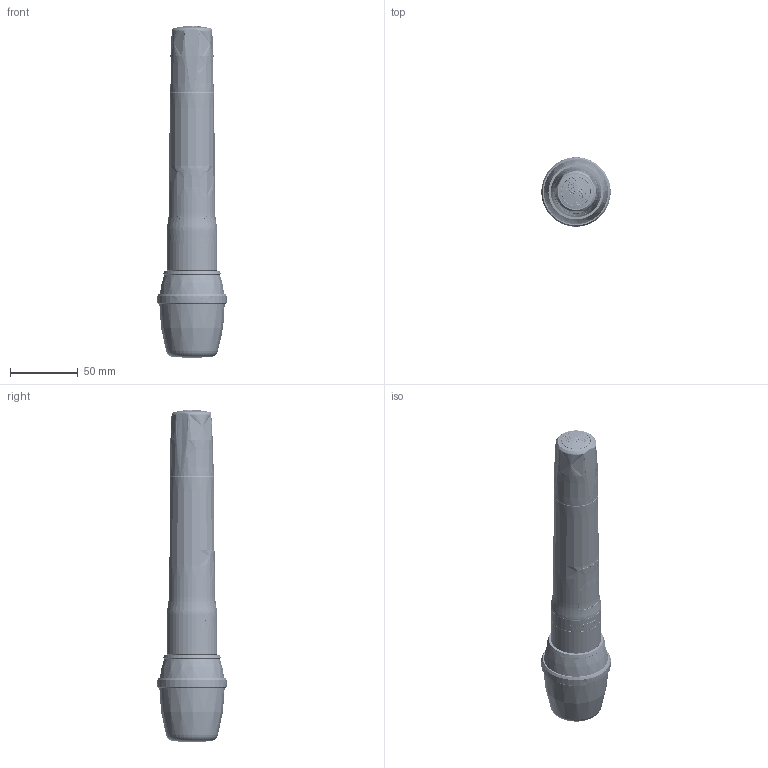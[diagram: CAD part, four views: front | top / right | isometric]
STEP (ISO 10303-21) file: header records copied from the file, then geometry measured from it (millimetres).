
FILE_DESCRIPTION(/* description */ (''),/* implementation_level */ '2;1');
FILE_NAME(/* name */ 'A20-HH_Shareable_3D.stp',/* time_stamp */ '2024-12-11T17:22:24-06:00',('The Cool People at Sound Devices'),(''),/* preprocessor_version */ 'ST-DEVELOPER v20',/* originating_system */ 'Autodesk Inventor 2024','Proprietary to Sound Devices LLC');
FILE_SCHEMA (('AUTOMOTIVE_DESIGN { 1 0 10303 214 3 1 1 }'));
Products named in the file (59): Solid 1; Solid 2; Solid 3; Solid 4; Solid 5; Solid 6; Solid 7; Solid 8; Solid 9; Solid 10; Solid 11; Solid 12; Solid 13; Solid 14; Solid 15; Solid 16; Solid 17; Solid 18; Solid 19; Solid 20; Solid 21; Solid 22; Solid 23; Solid 24; Solid 25; Solid 26; Solid 27; Solid 28; Solid 29; Solid 30; Solid 31; Solid 32; Solid 33; Solid 34; Solid 35; Solid 36; Solid 37; Solid 38; Solid 39; Solid 40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
Assembly tree (76 placements, depth 4):
  Solid 1
    Solid 2
    Solid 3
    Solid 4
      Solid 5
      Solid 6
      Solid 7
    Solid 8
      Solid 9
      Solid 10
      Solid 11
      Solid 12
      Solid 13
    Solid 14
      Solid 15
      Solid 21  x2
      Solid 16  x3
      Solid 17
      Solid 20
    Solid 18
      Solid 19
      Solid 20  x2
      Solid 21
    Solid 22
      Solid 23
      Solid 24
      Solid 25
    Solid 26
    Solid 27
      Solid 28
      Solid 29  x3
    Solid 30
    Solid 31
    Solid 32  x2
    Solid 33  x2
    Solid 34
    Solid 35
      Solid 36
      Solid 37
      Solid 38
      Solid 39
      Solid 40
    Solid 41
    Solid 42
    Solid 44  x3
    Solid 46  x7
    Solid 43
    Solid 45
    Solid 47
      Solid 48
      Solid 49
      Solid 50
      Solid 51
      Solid 52
      Solid 53
        Solid 54
        Solid 55
      Solid 56
      Solid 57
    Solid 58
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Bounding box: 51 x 51 x 244.12 mm (x, y, z)
Volume: 93182.5 mm3; surface area: 153839.4 mm2
Topology: 105 solids, 120 shells, 17214 faces, 44157 edges, 27183 vertices
Faces by surface type: plane 6748, bspline 4788, cylinder 3762, cone 797, torus 749, sphere 370
Full cylindrical faces by diameter (mm): 0.224 x1, 0.3 x3, 0.4 x3, 0.404 x1, 0.5 x8, 0.6 x17, 0.65 x1, 0.8 x7, 0.81 x1, 1 x1, 1.112 x14, 1.2 x5, 1.4 x7, 1.48 x9, 1.524 x14, 1.567 x9, 1.6 x4, 1.915 x11, 2 x13, 2.013 x15, 2.1 x7, 2.2 x2, 2.4 x1, 2.5 x9, 2.65 x6, 2.7 x12, 2.946 x1, 3 x8, 3.2 x6, 3.23 x6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
Entity records: 686003 total; most frequent: CARTESIAN_POINT 300088, ORIENTED_EDGE 85292, DIRECTION 68711, EDGE_CURVE 42646, VERTEX_POINT 26419, AXIS2_PLACEMENT_3D 23952, LINE 20807, VECTOR 20807
